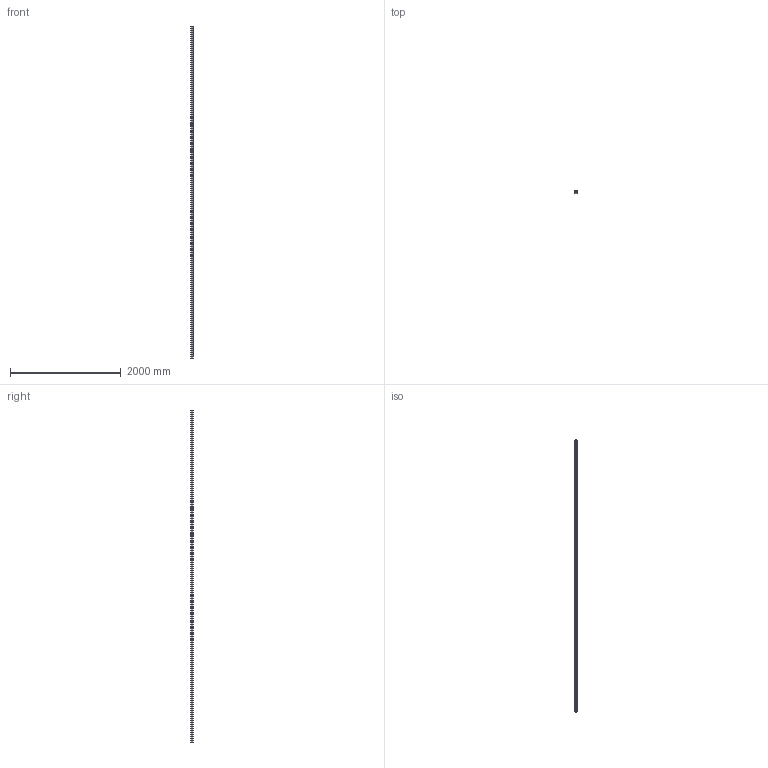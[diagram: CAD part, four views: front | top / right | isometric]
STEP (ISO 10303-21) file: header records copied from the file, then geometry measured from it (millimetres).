
FILE_DESCRIPTION (( 'STEP AP214' ), '1' );
FILE_NAME ('45x45 (Heavy) 100mm.STEP', '2017-08-05T23:12:19', ( 'Ahmed' ), ( '' ), 'SwSTEP 2.0', 'SolidWorks 2016', '' );
FILE_SCHEMA (( 'AUTOMOTIVE_DESIGN' ));
Length unit declared in the file: millimetre
Products named in the file (2): 45x45 (Heavy) 100mm
Bounding box: 45 x 45 x 6000 mm (x, y, z)
Volume: 4623596.6 mm3; surface area: 3548623.3 mm2
Topology: 1 solids, 1 shells, 314 faces, 915 edges, 610 vertices
Faces by surface type: plane 208, cylinder 80, bspline 26
Entity records: 12184 total; most frequent: CARTESIAN_POINT 3819, ORIENTED_EDGE 1830, DIRECTION 1603, EDGE_CURVE 915, LINE 703, VECTOR 703, VERTEX_POINT 610, AXIS2_PLACEMENT_3D 450
